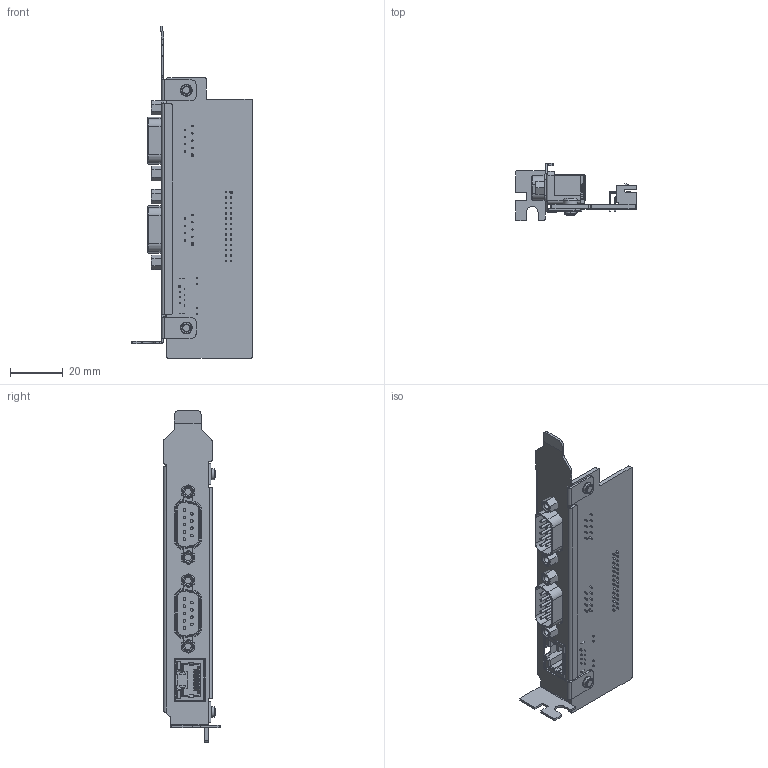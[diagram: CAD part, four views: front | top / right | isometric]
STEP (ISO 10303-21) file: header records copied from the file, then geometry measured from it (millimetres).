
FILE_DESCRIPTION((''),'2;1');
FILE_NAME('MV-23395-REV10-0725_ASM','2023-11-07T20:50:53',('huguozhe'),(''),'CREO PARAMETRIC BY PTC INC, 2020044','CREO PARAMETRIC BY PTC INC, 2020044','');
FILE_SCHEMA(('AUTOMOTIVE_DESIGN { 1 0 10303 214 1 1 1 1 }'));
Products named in the file (7): DE-11-055651; MV-23395-REV10; SC-P0M3X4-GB818; 101300621; 101303471; PHDK_2X14AW_2_ASSY_20220414; MV-23395-REV10-0725_ASM
Assembly tree (8 placements, depth 2):
  MV-23395-REV10-0725_ASM
    DE-11-055651
    MV-23395-REV10
    SC-P0M3X4-GB818  x2
    101300621  x2
    101303471
    PHDK_2X14AW_2_ASSY_20220414
Bounding box: 45.98 x 21.59 x 126.3 mm (x, y, z)
Volume: 15901.3 mm3; surface area: 24881.4 mm2
Topology: 9 solids, 42 shells, 2409 faces, 6428 edges, 3989 vertices
Faces by surface type: plane 1777, cylinder 506, cone 48, torus 32, bspline 30, sphere 16
Entity records: 87957 total; most frequent: CARTESIAN_POINT 14110, ORIENTED_EDGE 11704, DIRECTION 11158, EDGE_CURVE 5976, VECTOR 4836, LINE 4836, PRESENTATION_STYLE_ASSIGNMENT 4008, STYLED_ITEM 3861
